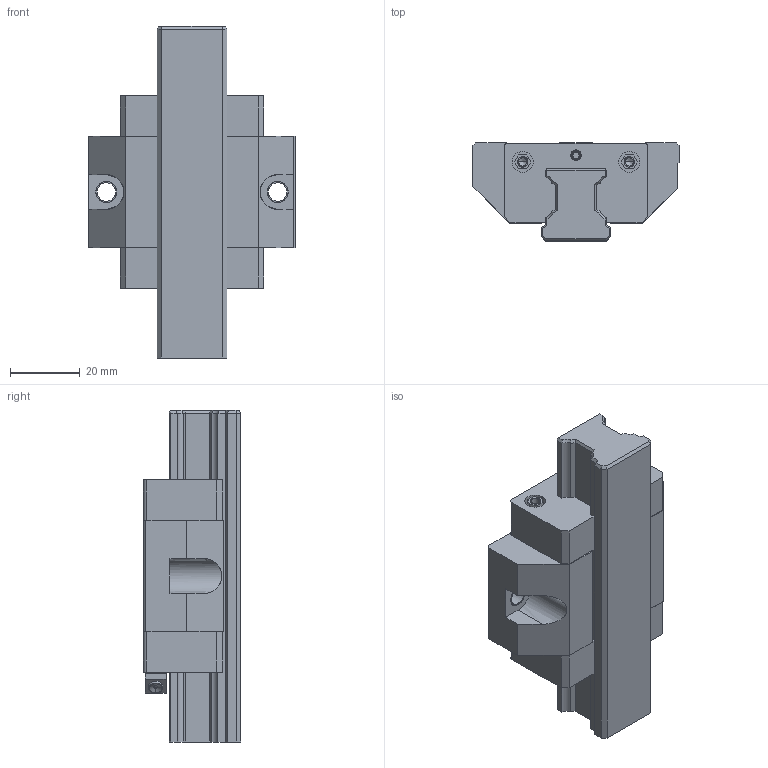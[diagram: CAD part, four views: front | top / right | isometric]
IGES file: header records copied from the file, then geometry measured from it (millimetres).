
Start section: 3D InterOp IGES (v. 2019 1.0.2), Spatial Corp. Copyright (c) 1999-2017.
Global section: file name: R1663_size20.igs; native system: Spatial Corp.; preprocessor: 3D InterOp GENERIC/IGES 3.0; author: Noname; organization: Noname; date: 20220629.125017; units: millimetre
Bounding box: 59 x 28 x 95 mm (x, y, z)
Surface area: 26821.6 mm2 (no closed solid volume)
Topology: 0 solids, 0 shells, 305 faces, 1664 edges, 1652 vertices
Faces by surface type: extrusion 189, revolution 116
